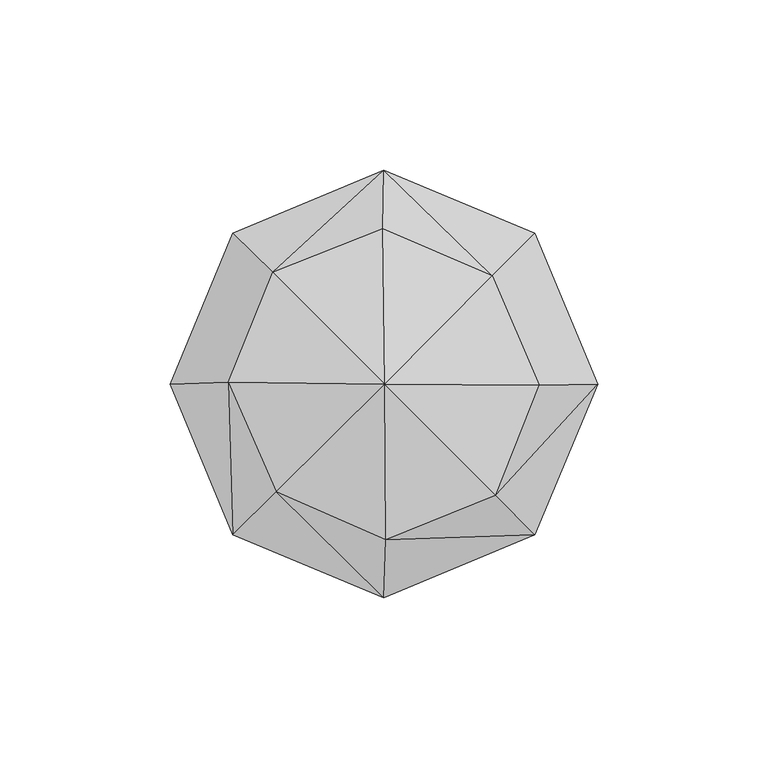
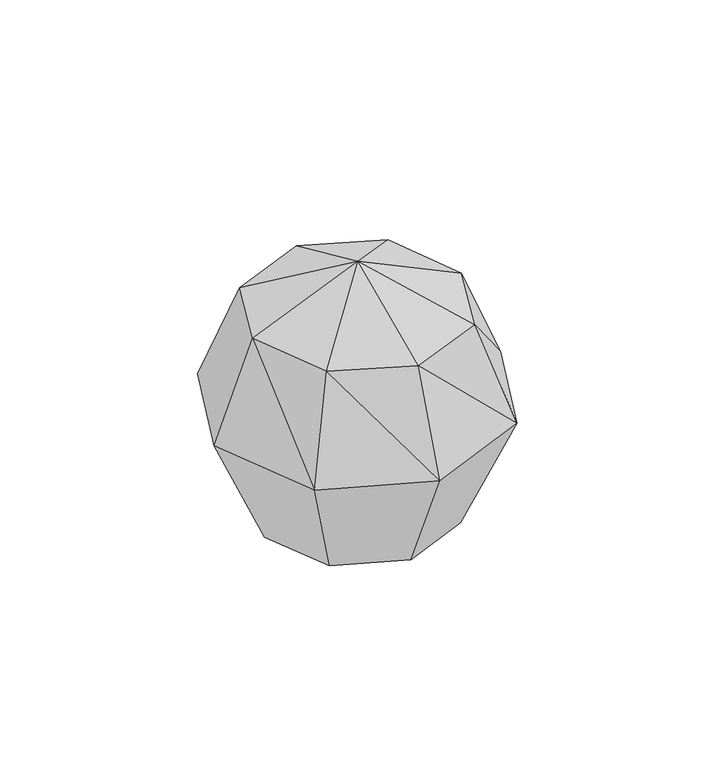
"""IFC4 building model written with IfcOpenShell, lengths in millimetres: geographic element geometry, Enscape AssetDefinition - Candle 002 : Enscape AssetDefinition - Candle 002."""

from ifc_helpers import new_model, si_unit, origin, place, context, project, spatial, triangles, source, transform, mapped, element, save


def geographic_element_75971b2c(model_context):
    return source(origin(), model_context, "Body", "Tessellation", [
        triangles([(-28.6943468, 28.6943468, 0.0), (0.0, 62.6482972, 50.0782024), (44.2990766, 44.2990766, 50.0782024), (-44.2990766, 44.2990766, 50.0782024), (-32.6528784, 32.7888757, 92.9982297), (-0.3291219, 45.4940663, 93.2919891), (0.176801, -0.0761604, 113.6005332), (31.7942575, 31.7978865, 93.2276216), (-45.6518328, 0.4841627, 93.5984475), (-31.6618869, -31.6582579, 92.9057481), (0.480536, -45.6482039, 92.7833446), (32.7852513, -32.6492517, 92.6174299), (-28.6943468, -28.6943468, 0.0), (-62.6482972, 0.0, 50.0782024), (-40.5799086, 0.0, 0.0), (-44.2990766, -44.2990766, 50.0782024), (0.0, -62.6482972, 50.0782024), (44.2990766, -44.2990766, 50.0782024), (28.6943468, -28.6943468, 0.0), (40.5799086, 0.0, 0.0), (0.0, -40.5799086, 0.0), (28.6943468, 28.6943468, 0.0), (62.6482972, 0.0, 50.0782024), (45.4904419, -0.3254952, 92.3490506), (0.0, 40.5799086, 0.0)], [[3, 22, 25], [24, 23, 3], [22, 3, 23], [23, 20, 22], [25, 22, 21], [22, 20, 21], [25, 21, 1], [20, 19, 21], [17, 21, 19], [20, 23, 18], [18, 19, 20], [19, 18, 17], [12, 18, 23], [23, 24, 12], [11, 17, 18], [18, 12, 11], [17, 11, 10], [10, 16, 17], [21, 17, 16], [21, 13, 1], [16, 13, 21], [13, 15, 1], [13, 16, 14], [14, 15, 13], [9, 14, 16], [16, 10, 9], [12, 24, 7], [11, 12, 7], [10, 11, 7], [9, 10, 7], [24, 8, 7], [3, 8, 24], [8, 6, 7], [5, 9, 7], [6, 5, 7], [14, 9, 5], [5, 4, 14], [15, 14, 4], [4, 1, 15], [8, 3, 2], [2, 6, 8], [5, 6, 2], [2, 4, 5], [25, 2, 3], [1, 4, 2], [2, 25, 1]]),
    ])


if __name__ == "__main__":
    model = new_model("IFC4")
    model_context = context("Model", 3, world=origin())
    ifc_project = project(units=[si_unit("LENGTHUNIT", "METRE", prefix="MILLI")], contexts=[model_context])
    site = spatial("IfcSite", under=ifc_project)
    building = spatial("IfcBuilding", under=site)
    placement = place(None, origin())
    geographic_element_shape = geographic_element_75971b2c(model_context)
    element("IfcGeographicElement", 1, ObjectType="Enscape AssetDefinition - Candle 002 : Enscape AssetDefinition - Candle 002", at=placement, inside=building, context=model_context, shape_type="MappedRepresentation", body=[
        mapped(geographic_element_shape, transform((0.0, 0.0, 0.0), x_axis=(1.0, 0.0, 0.0), y_axis=(0.0, 1.0, 0.0), z_axis=(0.0, 0.0, 1.0))),
    ])
    save(model, "model.ifc")
